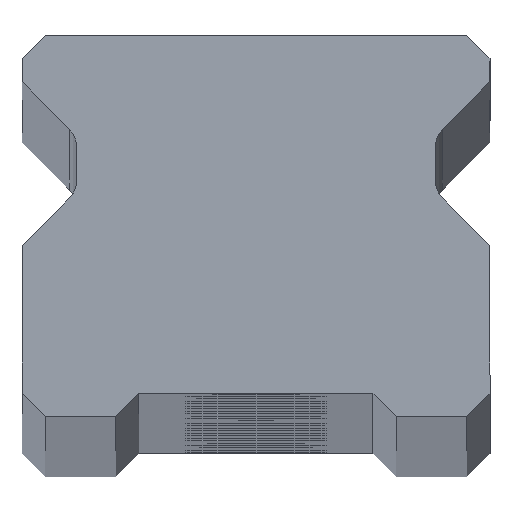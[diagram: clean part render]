
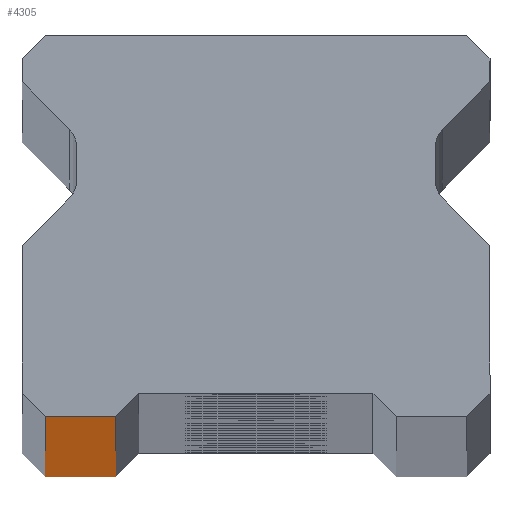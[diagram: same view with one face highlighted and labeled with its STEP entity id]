
A CAD part, top view. The second image highlights one B-rep face of the part: STEP entity #4305.
In plain terms, the highlighted planar face has unit normal (0, -1, 0).
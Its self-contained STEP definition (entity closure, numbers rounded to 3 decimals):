
#9 = CARTESIAN_POINT ( 'NONE',  ( -6., 0., -740. ) ) ;
#143 = VECTOR ( 'NONE', #1302, 1000. ) ;
#578 = LINE ( 'NONE', #4209, #143 ) ;
#666 = VERTEX_POINT ( 'NONE', #3376 ) ;
#836 = EDGE_CURVE ( 'NONE', #1393, #666, #578, .T. ) ;
#1302 = DIRECTION ( 'NONE',  ( 0., 0., -1. ) ) ;
#1393 = VERTEX_POINT ( 'NONE', #2022 ) ;
#1593 = ORIENTED_EDGE ( 'NONE', *, *, #836, .T. ) ;
#1778 = CARTESIAN_POINT ( 'NONE',  ( 10., 0., 740. ) ) ;
#1841 = LINE ( 'NONE', #1778, #2374 ) ;
#2022 = CARTESIAN_POINT ( 'NONE',  ( -9., 0., 740. ) ) ;
#2060 = EDGE_CURVE ( 'NONE', #666, #2169, #4185, .T. ) ;
#2134 = DIRECTION ( 'NONE',  ( 1., 0., 0. ) ) ;
#2169 = VERTEX_POINT ( 'NONE', #9 ) ;
#2191 = EDGE_LOOP ( 'NONE', ( #3682, #3324, #3614, #1593 ) ) ;
#2208 = EDGE_CURVE ( 'NONE', #1393, #4002, #1841, .T. ) ;
#2305 = CARTESIAN_POINT ( 'NONE',  ( 10., 0., 740. ) ) ;
#2374 = VECTOR ( 'NONE', #4338, 1000. ) ;
#2570 = DIRECTION ( 'NONE',  ( -1., 0., 0. ) ) ;
#2841 = CARTESIAN_POINT ( 'NONE',  ( -6., 0., -740. ) ) ;
#2866 = FACE_OUTER_BOUND ( 'NONE', #2191, .T. ) ;
#3156 = AXIS2_PLACEMENT_3D ( 'NONE', #2305, #4088, #2570 ) ;
#3192 = CARTESIAN_POINT ( 'NONE',  ( 10., 0., -740. ) ) ;
#3202 = EDGE_CURVE ( 'NONE', #2169, #4002, #3314, .T. ) ;
#3314 = LINE ( 'NONE', #2841, #4677 ) ;
#3324 = ORIENTED_EDGE ( 'NONE', *, *, #3202, .T. ) ;
#3376 = CARTESIAN_POINT ( 'NONE',  ( -9., 0., -740. ) ) ;
#3402 = CARTESIAN_POINT ( 'NONE',  ( -6., 0., 740. ) ) ;
#3453 = VECTOR ( 'NONE', #2134, 1000. ) ;
#3614 = ORIENTED_EDGE ( 'NONE', *, *, #2208, .F. ) ;
#3682 = ORIENTED_EDGE ( 'NONE', *, *, #2060, .T. ) ;
#3745 = PLANE ( 'NONE',  #3156 ) ;
#4002 = VERTEX_POINT ( 'NONE', #3402 ) ;
#4088 = DIRECTION ( 'NONE',  ( 0., 1., 0. ) ) ;
#4185 = LINE ( 'NONE', #3192, #3453 ) ;
#4209 = CARTESIAN_POINT ( 'NONE',  ( -9., 0., 740. ) ) ;
#4305 = ADVANCED_FACE ( 'NONE', ( #2866 ), #3745, .F. ) ;
#4314 = DIRECTION ( 'NONE',  ( 0., 0., 1. ) ) ;
#4338 = DIRECTION ( 'NONE',  ( 1., 0., 0. ) ) ;
#4677 = VECTOR ( 'NONE', #4314, 1000. ) ;
